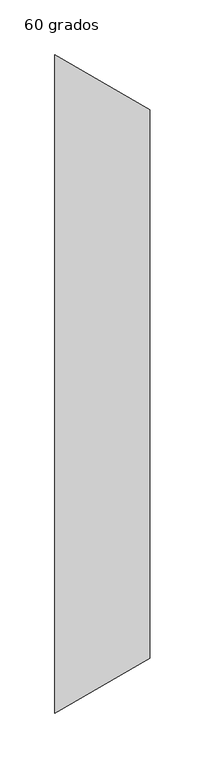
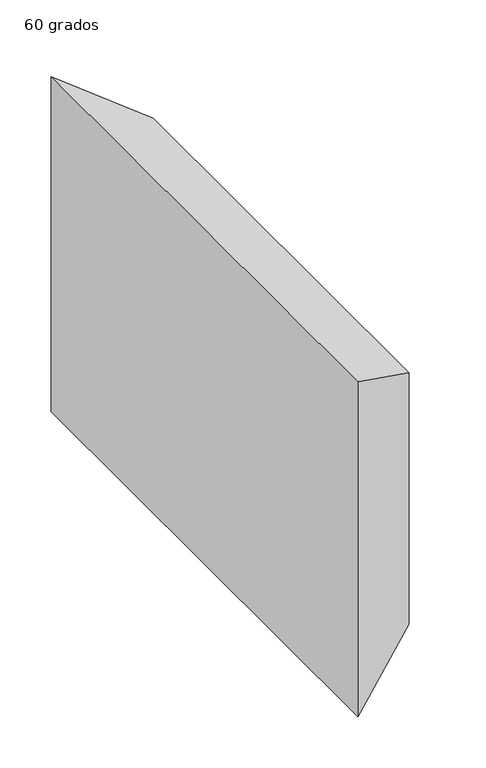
"""IFC4 building model written with IfcOpenShell, lengths in millimetres: duct fitting geometry, M_Transición rectangular - Ángulo : 60 grados."""

from ifc_helpers import new_model, si_unit, origin, place, context, project, spatial, faceted_brep, source, transform, mapped, element, save


def duct_fitting_60_grados_bcd13069(model_context):
    return source(origin(), model_context, "Body", "Brep", [
        faceted_brep([(86.6025404, -250.0, 150.0039239), (86.6025404, -250.0, -149.9960761), (86.6025404, 250.0, -149.9960761), (86.6025404, 250.0, 150.0039239), (0.0, -300.0, 200.0), (0.0, 300.0, 200.0), (0.0, 300.0, -200.0), (0.0, -300.0, -200.0)], [[[0, 1, 2, 3]], [[4, 5, 6, 7]], [[4, 7, 1, 0]], [[7, 6, 2, 1]], [[6, 5, 3, 2]], [[5, 4, 0, 3]]]),
    ])


if __name__ == "__main__":
    model = new_model("IFC4")
    model_context = context("Model", 3, world=origin())
    ifc_project = project(units=[si_unit("LENGTHUNIT", "METRE", prefix="MILLI")], contexts=[model_context])
    site = spatial("IfcSite", under=ifc_project)
    building = spatial("IfcBuilding", under=site)
    placement = place(None, origin())
    duct_fitting_60_grados_shape = duct_fitting_60_grados_bcd13069(model_context)
    element("IfcDuctFitting", 1, ObjectType="M_Transición rectangular - Ángulo : 60 grados", at=placement, inside=building, context=model_context, shape_type="MappedRepresentation", body=[
        mapped(duct_fitting_60_grados_shape, transform((0.0, 0.0, 0.0), x_axis=(1.0, 0.0, 0.0), y_axis=(0.0, 1.0, 0.0), z_axis=(0.0, 0.0, 1.0))),
    ])
    save(model, "model.ifc")
